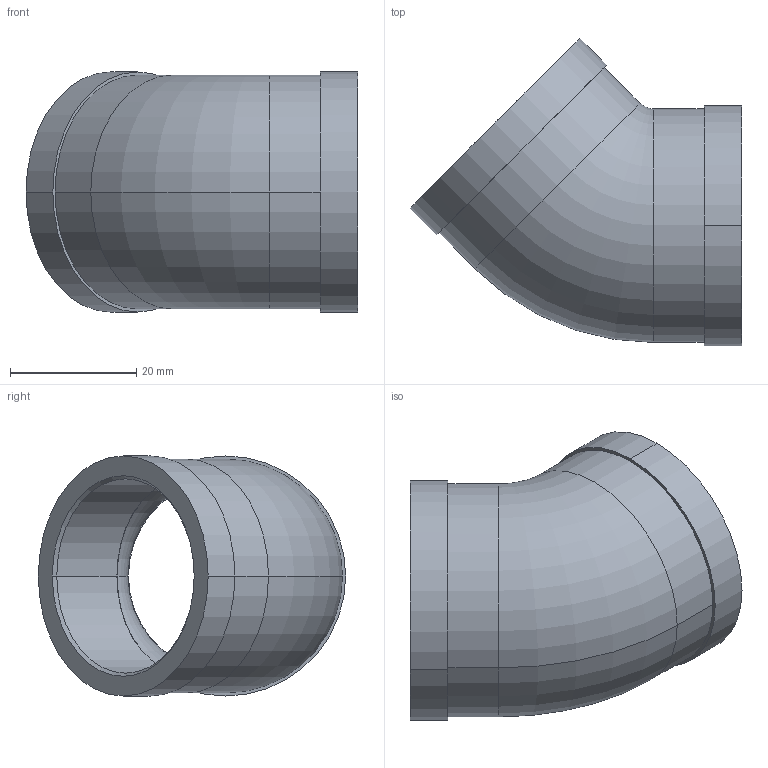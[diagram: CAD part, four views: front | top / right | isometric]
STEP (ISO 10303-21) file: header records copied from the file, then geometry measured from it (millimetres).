
FILE_DESCRIPTION (( 'STEP AP203' ), '1' );
FILE_NAME ('Wiberger-wn8626-a4-1tum.step', '2025-03-11T09:14:31', ( '' ), ( '' ), 'SwSTEP 2.0', 'SolidWorks 2023', '' );
FILE_SCHEMA (( 'CONFIG_CONTROL_DESIGN' ));
Length unit declared in the file: millimetre
Products named in the file (1): Wiberger-wn8626-a4-1tum
Bounding box: 52.54 x 48.63 x 38 mm (x, y, z)
Volume: 15405.3 mm3; surface area: 10473.7 mm2
Topology: 1 solids, 1 shells, 26 faces, 52 edges, 32 vertices
Faces by surface type: cylinder 12, plane 6, torus 4, cone 4
Entity records: 769 total; most frequent: DIRECTION 142, CARTESIAN_POINT 111, ORIENTED_EDGE 104, AXIS2_PLACEMENT_3D 63, EDGE_CURVE 52, CIRCLE 36, VERTEX_POINT 32, EDGE_LOOP 32
